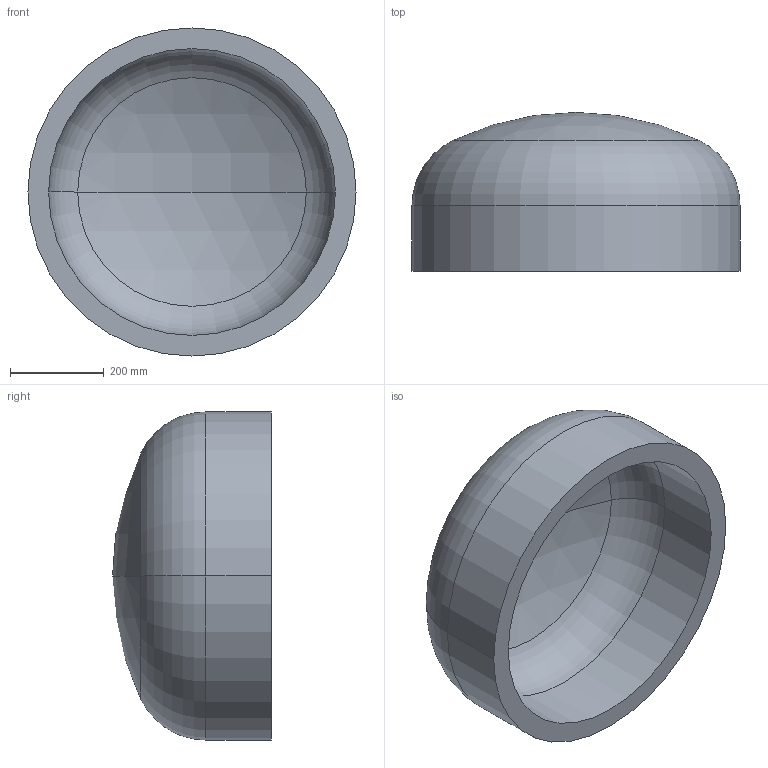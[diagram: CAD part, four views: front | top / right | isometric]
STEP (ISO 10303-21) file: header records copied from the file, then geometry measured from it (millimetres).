
FILE_DESCRIPTION (( 'STEP AP203' ), '1' );
FILE_NAME ('DIN 28013 Korbbogenform_-_Boden DIN 28013 - 700 x 140 - I - s=44.step', '2016-07-01T08:08:06', ( '' ), ( '' ), 'SwSTEP 2.0', 'SolidWorks 2013', '' );
FILE_SCHEMA (( 'CONFIG_CONTROL_DESIGN' ));
Length unit declared in the file: millimetre
Products named in the file (1): DIN 28013 Korbbogenform_-_Boden DIN 28013 - 700 x 140 - I - s=44
Bounding box: 700 x 338.93 x 700 mm (x, y, z)
Volume: 34436869.8 mm3; surface area: 1660045.7 mm2
Topology: 1 solids, 1 shells, 13 faces, 24 edges, 14 vertices
Faces by surface type: torus 4, cylinder 4, sphere 4, plane 1
Entity records: 407 total; most frequent: DIRECTION 72, CARTESIAN_POINT 52, ORIENTED_EDGE 48, AXIS2_PLACEMENT_3D 34, EDGE_CURVE 24, CIRCLE 20, VERTEX_POINT 14, EDGE_LOOP 14
